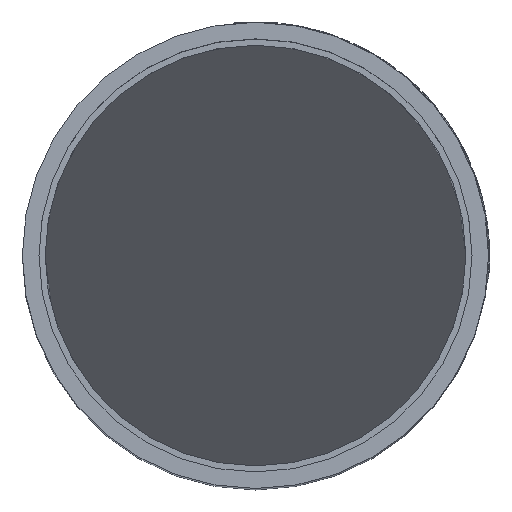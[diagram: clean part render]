
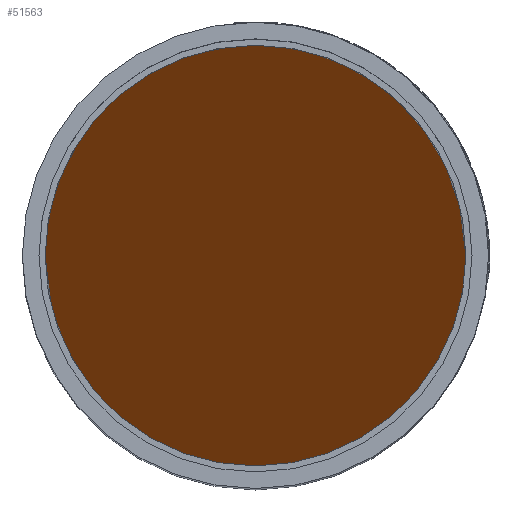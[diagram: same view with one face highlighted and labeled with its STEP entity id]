
A CAD part, top view. The second image highlights one B-rep face of the part: STEP entity #51563.
In plain terms, the highlighted planar face has unit normal (0, -0.707, 0.707).
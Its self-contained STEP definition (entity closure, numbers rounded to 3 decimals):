
#1963 = CARTESIAN_POINT ( 'NONE',  ( -101.5, 0., 207.828 ) ) ;
#9436 = CARTESIAN_POINT ( 'NONE',  ( -101.5, 0., 207.828 ) ) ;
#9608 = CARTESIAN_POINT ( 'NONE',  ( -101.5, 203., 410.828 ) ) ;
#11560 = VERTEX_POINT ( 'NONE', #52078 ) ;
#12061 = VERTEX_POINT ( 'NONE', #9436 ) ;
#20791 = CARTESIAN_POINT ( 'NONE',  ( 101.5, 0., 207.828 ) ) ;
#21982 = EDGE_CURVE ( 'NONE', #12061, #11560, #34147, .T. ) ;
#22038 = CARTESIAN_POINT ( 'NONE',  ( -101.5, 0., 207.828 ) ) ;
#28721 = FACE_OUTER_BOUND ( 'NONE', #47196, .T. ) ;
#34147 =( BOUNDED_CURVE ( )  B_SPLINE_CURVE ( 3, ( #1963, #69729, #38840, #20791 ),
 .UNSPECIFIED., .F., .F. ) 
 B_SPLINE_CURVE_WITH_KNOTS ( ( 4, 4 ),
 ( 4.712, 7.854 ),
 .UNSPECIFIED. ) 
 CURVE ( )  GEOMETRIC_REPRESENTATION_ITEM ( )  RATIONAL_B_SPLINE_CURVE ( ( 1., 0.333, 0.333, 1. ) ) 
 REPRESENTATION_ITEM ( '' )  );
#38840 = CARTESIAN_POINT ( 'NONE',  ( 101.5, -203., 4.828 ) ) ;
#40701 = AXIS2_PLACEMENT_3D ( 'NONE', #71582, #46342, #52796 ) ;
#46342 = DIRECTION ( 'NONE',  ( 0., 0.707, -0.707 ) ) ;
#46533 = ORIENTED_EDGE ( 'NONE', *, *, #63052, .T. ) ;
#46733 = PLANE ( 'NONE',  #40701 ) ;
#47196 = EDGE_LOOP ( 'NONE', ( #63221, #46533 ) ) ;
#51563 = ADVANCED_FACE ( 'NONE', ( #28721 ), #46733, .F. ) ;
#52078 = CARTESIAN_POINT ( 'NONE',  ( 101.5, 0., 207.828 ) ) ;
#52553 = CARTESIAN_POINT ( 'NONE',  ( 101.5, 0., 207.828 ) ) ;
#52796 = DIRECTION ( 'NONE',  ( 0., 0.707, 0.707 ) ) ;
#58124 = CARTESIAN_POINT ( 'NONE',  ( 101.5, 203., 410.828 ) ) ;
#59899 =( BOUNDED_CURVE ( )  B_SPLINE_CURVE ( 3, ( #52553, #58124, #9608, #22038 ),
 .UNSPECIFIED., .F., .T. ) 
 B_SPLINE_CURVE_WITH_KNOTS ( ( 4, 4 ),
 ( 1.571, 4.712 ),
 .UNSPECIFIED. ) 
 CURVE ( )  GEOMETRIC_REPRESENTATION_ITEM ( )  RATIONAL_B_SPLINE_CURVE ( ( 1., 0.333, 0.333, 1. ) ) 
 REPRESENTATION_ITEM ( '' )  );
#63052 = EDGE_CURVE ( 'NONE', #11560, #12061, #59899, .T. ) ;
#63221 = ORIENTED_EDGE ( 'NONE', *, *, #21982, .T. ) ;
#69729 = CARTESIAN_POINT ( 'NONE',  ( -101.5, -203., 4.828 ) ) ;
#71582 = CARTESIAN_POINT ( 'NONE',  ( 356.532, -103.914, 103.914 ) ) ;
